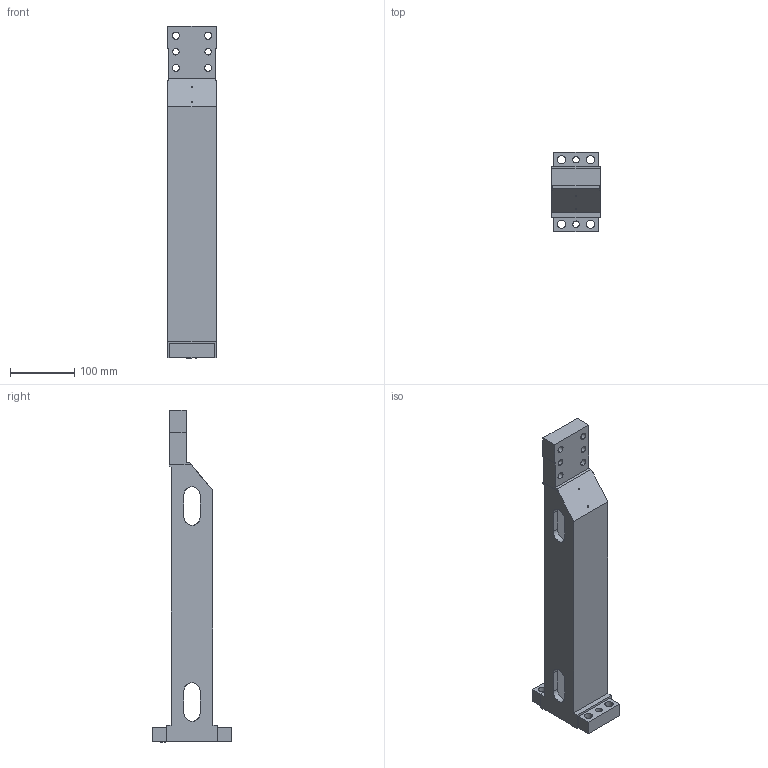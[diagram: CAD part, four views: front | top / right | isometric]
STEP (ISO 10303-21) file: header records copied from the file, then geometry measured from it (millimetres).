
FILE_DESCRIPTION (( 'STEP AP203' ), '1' );
FILE_NAME ('Clampact_KLP-EU-654-H450.STEP', '2023-07-16T13:15:21', ( '' ), ( '' ), 'SwSTEP 2.0', 'SolidWorks 2018', '' );
FILE_SCHEMA (( 'CONFIG_CONTROL_DESIGN' ));
Length unit declared in the file: millimetre
Products named in the file (1): Clampact_KLP-EU-654-H450
Bounding box: 75 x 124 x 515 mm (x, y, z)
Volume: 1086618.5 mm3; surface area: 244120.9 mm2
Topology: 1 solids, 1 shells, 398 faces, 1101 edges, 736 vertices
Faces by surface type: plane 235, bspline 127, cylinder 36
Entity records: 19550 total; most frequent: CARTESIAN_POINT 10106, ORIENTED_EDGE 2202, DIRECTION 1410, EDGE_CURVE 1101, VECTOR 764, LINE 764, VERTEX_POINT 736, EDGE_LOOP 465
